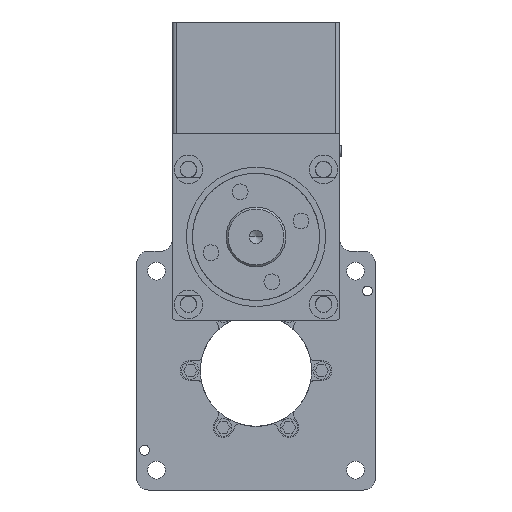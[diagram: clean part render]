
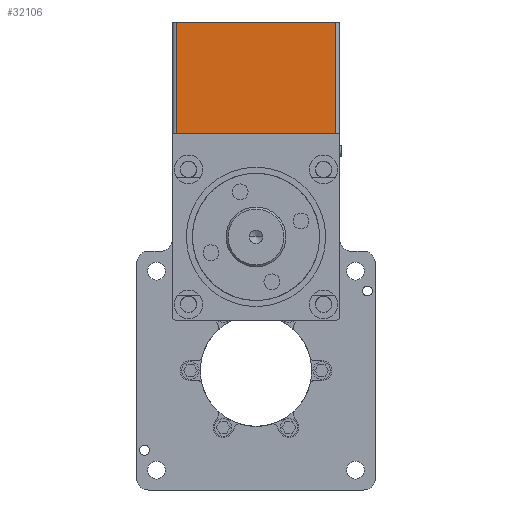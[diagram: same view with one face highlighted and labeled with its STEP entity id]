
A CAD part, front view. The second image highlights one B-rep face of the part: STEP entity #32106.
In plain terms, the highlighted planar face has unit normal (0, -1, 0) as drawn and (-1, 0, 0) by its records, which use the part's own axes.
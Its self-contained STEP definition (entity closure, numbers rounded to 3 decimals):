
#29208 = PLANE('',#29209);
#29209 = AXIS2_PLACEMENT_3D('',#29210,#29211,#29212);
#29210 = CARTESIAN_POINT('',(-1.364,-34.644,-21.));
#29211 = DIRECTION('',(0.,-1.,0.));
#29212 = DIRECTION('',(0.,-0.,-1.));
#30257 = PLANE('',#30258);
#30258 = AXIS2_PLACEMENT_3D('',#30259,#30260,#30261);
#30259 = CARTESIAN_POINT('',(-1.364,-6.644,-21.));
#30260 = DIRECTION('',(0.,-1.,0.));
#30261 = DIRECTION('',(0.,-0.,-1.));
#32106 = ADVANCED_FACE('',(#32107),#32121,.F.);
#32107 = FACE_BOUND('',#32108,.T.);
#32108 = EDGE_LOOP('',(#32109,#32144,#32167,#32195));
#32109 = ORIENTED_EDGE('',*,*,#32110,.F.);
#32110 = EDGE_CURVE('',#32111,#32113,#32115,.T.);
#32111 = VERTEX_POINT('',#32112);
#32112 = CARTESIAN_POINT('',(-43.364,-6.644,20.));
#32113 = VERTEX_POINT('',#32114);
#32114 = CARTESIAN_POINT('',(-43.364,-34.644,20.));
#32115 = SURFACE_CURVE('',#32116,(#32120,#32132),.PCURVE_S1.);
#32116 = LINE('',#32117,#32118);
#32117 = CARTESIAN_POINT('',(-43.364,-6.644,20.));
#32118 = VECTOR('',#32119,1.);
#32119 = DIRECTION('',(-0.,-1.,-0.));
#32120 = PCURVE('',#32121,#32126);
#32121 = PLANE('',#32122);
#32122 = AXIS2_PLACEMENT_3D('',#32123,#32124,#32125);
#32123 = CARTESIAN_POINT('',(-43.364,-6.644,21.));
#32124 = DIRECTION('',(1.,-0.,0.));
#32125 = DIRECTION('',(0.,0.,-1.));
#32126 = DEFINITIONAL_REPRESENTATION('',(#32127),#32131);
#32127 = LINE('',#32128,#32129);
#32128 = CARTESIAN_POINT('',(1.,0.));
#32129 = VECTOR('',#32130,1.);
#32130 = DIRECTION('',(0.,-1.));
#32131 = ( GEOMETRIC_REPRESENTATION_CONTEXT(2) 
PARAMETRIC_REPRESENTATION_CONTEXT() REPRESENTATION_CONTEXT('2D SPACE',''
  ) );
#32132 = PCURVE('',#32133,#32138);
#32133 = CYLINDRICAL_SURFACE('',#32134,1.);
#32134 = AXIS2_PLACEMENT_3D('',#32135,#32136,#32137);
#32135 = CARTESIAN_POINT('',(-42.364,-6.644,20.));
#32136 = DIRECTION('',(0.,-1.,0.));
#32137 = DIRECTION('',(0.,0.,-1.));
#32138 = DEFINITIONAL_REPRESENTATION('',(#32139),#32143);
#32139 = LINE('',#32140,#32141);
#32140 = CARTESIAN_POINT('',(4.712,0.));
#32141 = VECTOR('',#32142,1.);
#32142 = DIRECTION('',(0.,1.));
#32143 = ( GEOMETRIC_REPRESENTATION_CONTEXT(2) 
PARAMETRIC_REPRESENTATION_CONTEXT() REPRESENTATION_CONTEXT('2D SPACE',''
  ) );
#32144 = ORIENTED_EDGE('',*,*,#32145,.F.);
#32145 = EDGE_CURVE('',#32146,#32111,#32148,.T.);
#32146 = VERTEX_POINT('',#32147);
#32147 = CARTESIAN_POINT('',(-43.364,-6.644,-20.));
#32148 = SURFACE_CURVE('',#32149,(#32153,#32160),.PCURVE_S1.);
#32149 = LINE('',#32150,#32151);
#32150 = CARTESIAN_POINT('',(-43.364,-6.644,21.));
#32151 = VECTOR('',#32152,1.);
#32152 = DIRECTION('',(-0.,-0.,1.));
#32153 = PCURVE('',#32121,#32154);
#32154 = DEFINITIONAL_REPRESENTATION('',(#32155),#32159);
#32155 = LINE('',#32156,#32157);
#32156 = CARTESIAN_POINT('',(0.,0.));
#32157 = VECTOR('',#32158,1.);
#32158 = DIRECTION('',(-1.,0.));
#32159 = ( GEOMETRIC_REPRESENTATION_CONTEXT(2) 
PARAMETRIC_REPRESENTATION_CONTEXT() REPRESENTATION_CONTEXT('2D SPACE',''
  ) );
#32160 = PCURVE('',#30257,#32161);
#32161 = DEFINITIONAL_REPRESENTATION('',(#32162),#32166);
#32162 = LINE('',#32163,#32164);
#32163 = CARTESIAN_POINT('',(-42.,-42.));
#32164 = VECTOR('',#32165,1.);
#32165 = DIRECTION('',(-1.,0.));
#32166 = ( GEOMETRIC_REPRESENTATION_CONTEXT(2) 
PARAMETRIC_REPRESENTATION_CONTEXT() REPRESENTATION_CONTEXT('2D SPACE',''
  ) );
#32167 = ORIENTED_EDGE('',*,*,#32168,.F.);
#32168 = EDGE_CURVE('',#32169,#32146,#32171,.T.);
#32169 = VERTEX_POINT('',#32170);
#32170 = CARTESIAN_POINT('',(-43.364,-34.644,-20.));
#32171 = SURFACE_CURVE('',#32172,(#32176,#32183),.PCURVE_S1.);
#32172 = LINE('',#32173,#32174);
#32173 = CARTESIAN_POINT('',(-43.364,-6.644,-20.));
#32174 = VECTOR('',#32175,1.);
#32175 = DIRECTION('',(0.,1.,0.));
#32176 = PCURVE('',#32121,#32177);
#32177 = DEFINITIONAL_REPRESENTATION('',(#32178),#32182);
#32178 = LINE('',#32179,#32180);
#32179 = CARTESIAN_POINT('',(41.,0.));
#32180 = VECTOR('',#32181,1.);
#32181 = DIRECTION('',(0.,1.));
#32182 = ( GEOMETRIC_REPRESENTATION_CONTEXT(2) 
PARAMETRIC_REPRESENTATION_CONTEXT() REPRESENTATION_CONTEXT('2D SPACE',''
  ) );
#32183 = PCURVE('',#32184,#32189);
#32184 = CYLINDRICAL_SURFACE('',#32185,1.);
#32185 = AXIS2_PLACEMENT_3D('',#32186,#32187,#32188);
#32186 = CARTESIAN_POINT('',(-42.364,-6.644,-20.));
#32187 = DIRECTION('',(-0.,-1.,0.));
#32188 = DIRECTION('',(-0.,0.,-1.));
#32189 = DEFINITIONAL_REPRESENTATION('',(#32190),#32194);
#32190 = LINE('',#32191,#32192);
#32191 = CARTESIAN_POINT('',(4.712,0.));
#32192 = VECTOR('',#32193,1.);
#32193 = DIRECTION('',(0.,-1.));
#32194 = ( GEOMETRIC_REPRESENTATION_CONTEXT(2) 
PARAMETRIC_REPRESENTATION_CONTEXT() REPRESENTATION_CONTEXT('2D SPACE',''
  ) );
#32195 = ORIENTED_EDGE('',*,*,#32196,.F.);
#32196 = EDGE_CURVE('',#32113,#32169,#32197,.T.);
#32197 = SURFACE_CURVE('',#32198,(#32202,#32209),.PCURVE_S1.);
#32198 = LINE('',#32199,#32200);
#32199 = CARTESIAN_POINT('',(-43.364,-34.644,21.));
#32200 = VECTOR('',#32201,1.);
#32201 = DIRECTION('',(0.,0.,-1.));
#32202 = PCURVE('',#32121,#32203);
#32203 = DEFINITIONAL_REPRESENTATION('',(#32204),#32208);
#32204 = LINE('',#32205,#32206);
#32205 = CARTESIAN_POINT('',(0.,-28.));
#32206 = VECTOR('',#32207,1.);
#32207 = DIRECTION('',(1.,0.));
#32208 = ( GEOMETRIC_REPRESENTATION_CONTEXT(2) 
PARAMETRIC_REPRESENTATION_CONTEXT() REPRESENTATION_CONTEXT('2D SPACE',''
  ) );
#32209 = PCURVE('',#29208,#32210);
#32210 = DEFINITIONAL_REPRESENTATION('',(#32211),#32215);
#32211 = LINE('',#32212,#32213);
#32212 = CARTESIAN_POINT('',(-42.,-42.));
#32213 = VECTOR('',#32214,1.);
#32214 = DIRECTION('',(1.,0.));
#32215 = ( GEOMETRIC_REPRESENTATION_CONTEXT(2) 
PARAMETRIC_REPRESENTATION_CONTEXT() REPRESENTATION_CONTEXT('2D SPACE',''
  ) );
